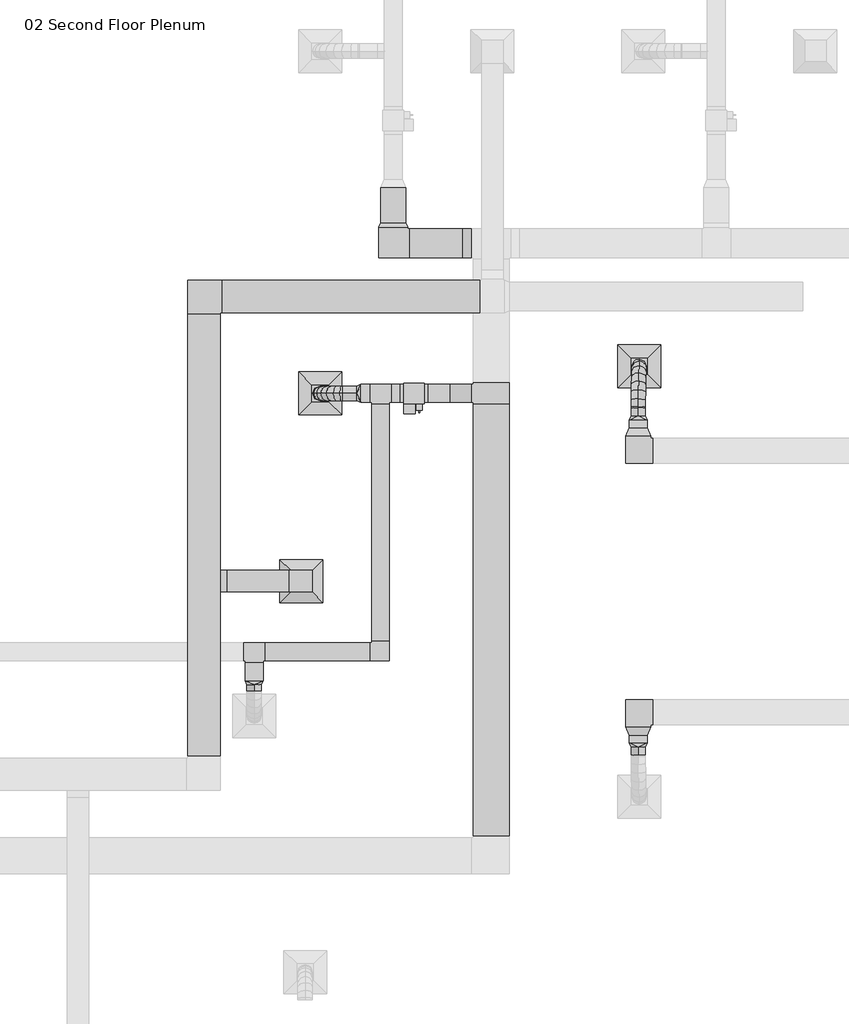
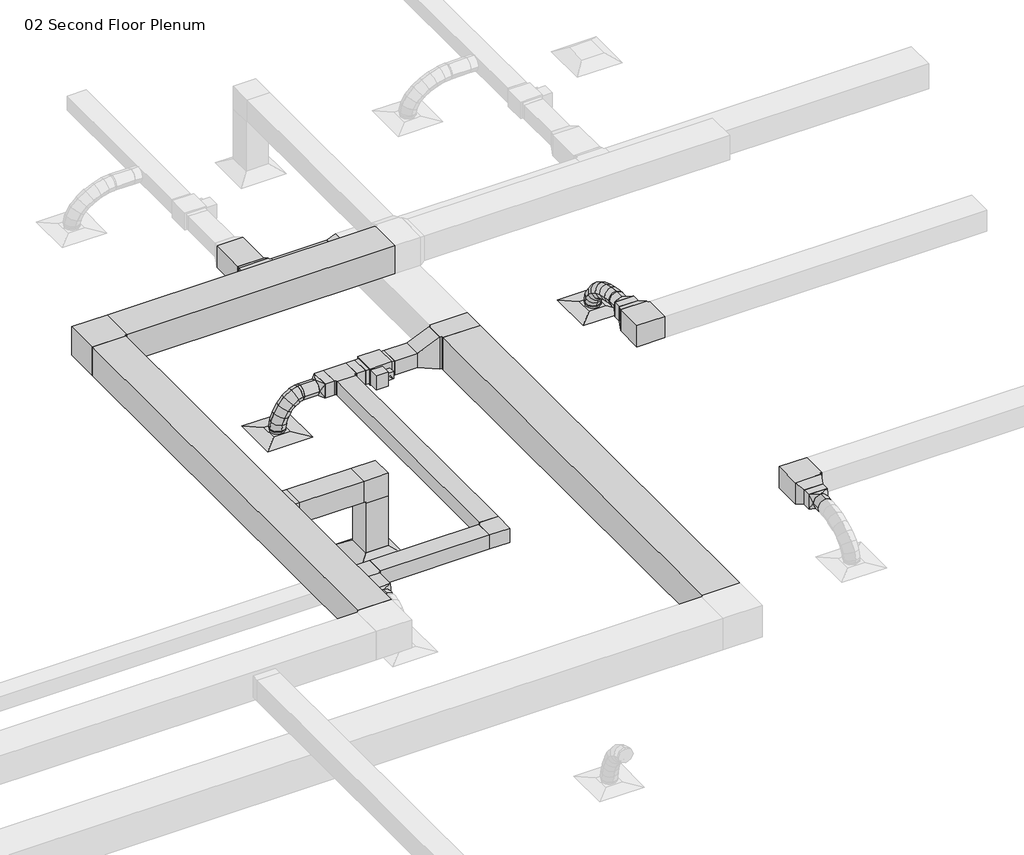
# One storey, part 5 of 12: 21 duct segments, 19 duct fittings, 3 air terminals, 1 proxy.
"""IFC4 building model written with IfcOpenShell, lengths in millimetres."""

from ifc_helpers import new_model, si_unit, point, frame, frame_2d, origin, place, context, project, spatial, polyline, circle_curve, ellipse_curve, trimmed, segment, composite_curve, outline, extrude, transform, mapped, element, save
from ifc_brep_helpers import plane_surface, cylinder_surface, advanced_brep
from components import return_diffuser_d30_returndiffuser_24x24_12x12_connection_ff543d60, supply_diffuser_rectangular_face_round_neck_d30_6390248a, bcn6785_vav_d30_vav1_8c327968, rectangular_elbow_mitered_standard_f09b78ec, rectangular_elbow_mitered_standard_f5573d14, rectangular_elbow_mitered_standard_452c98c7, rectangular_elbow_mitered_standard_d7f068f4, rectangular_elbow_mitered_standard_3a774ab6, rectangular_elbow_mitered_standard_4ff1c4e8, rectangular_takeoff_standard_e60ef6aa, rectangular_tee_standard_b316833c, rectangular_tee_standard_fc6ba10c, rectangular_transition_angle_45_degree_183635ce, rectangular_transition_angle_45_degree_6fcfed4c, rectangular_transition_angle_45_degree_308f7163, rectangular_transition_angle_45_degree_43c6b1ce, rectangular_transition_angle_45_degree_e9be1a90, rectangular_to_round_transition_angle_45_degree_e9430680, rectangular_to_round_transition_angle_45_degree_a46ebf92

model = new_model("IFC4")

# Units and contexts
model_context = context("Model", 3, world=origin())
ifc_project = project(units=[si_unit("LENGTHUNIT", "METRE", prefix="MILLI")], contexts=[model_context])

# Site, building, storey
site = spatial("IfcSite", under=ifc_project)
building = spatial("IfcBuilding", under=site)
storey = spatial("IfcBuildingStorey", under=building, Name="02 Second Floor Plenum", Elevation=3048.0)

# Air terminals
placement = place(None, origin())
return_diffuser_d30_returndiffuser_24x24_12x12_connection_shape = return_diffuser_d30_returndiffuser_24x24_12x12_connection_ff543d60(model_context)
element("IfcAirTerminal", 1, ObjectType="Return Diffuser : D30_ReturnDiffuser_24x24 12x12 Connection", at=placement, inside=storey, context=model_context, shape_type="MappedRepresentation", body=[
    mapped(return_diffuser_d30_returndiffuser_24x24_12x12_connection_shape, transform((-6594.6439747, 2535.164804, 3048.0), x_axis=(1.0, 0.0, 0.0), y_axis=(0.0, 1.0, 0.0), z_axis=(0.0, 0.0, 1.0))),
])
supply_diffuser_rectangular_face_round_neck_d30_shape = supply_diffuser_rectangular_face_round_neck_d30_6390248a(model_context)
element("IfcAirTerminal", 2, ObjectType="Supply Diffuser - Rectangular Face Round Neck : D30_SupplyDiffuser_24x24 8 Neck", at=placement, inside=storey, context=model_context, shape_type="MappedRepresentation", body=[
    mapped(supply_diffuser_rectangular_face_round_neck_d30_shape, transform((-1812.02907, 5575.8921675, 3048.0), x_axis=(1.0, 0.0, 0.0), y_axis=(0.0, 1.0, 0.0), z_axis=(0.0, 0.0, 1.0))),
])
element("IfcAirTerminal", 3, ObjectType="Supply Diffuser - Rectangular Face Round Neck : D30_SupplyDiffuser_24x24 8 Neck", at=placement, inside=storey, context=model_context, shape_type="MappedRepresentation", body=[
    mapped(supply_diffuser_rectangular_face_round_neck_d30_shape, transform((-6329.1542617, 5190.9101985, 3048.0), x_axis=(1.0, 0.0, 0.0), y_axis=(0.0, 1.0, 0.0), z_axis=(0.0, 0.0, 1.0))),
])

# Proxy
bcn6785_vav_d30_vav1_shape = bcn6785_vav_d30_vav1_8c327968(model_context)
element("IfcBuildingElementProxy", 4, Name="BCN6785_VAV : D30_VAV1", ObjectType="BCN6785_VAV : D30_VAV1", at=placement, inside=storey, context=model_context, shape_type="MappedRepresentation", body=[
    mapped(bcn6785_vav_d30_vav1_shape, transform((-5146.698366, 5190.9101985, 3384.55), x_axis=(1.0, 0.0, 0.0), y_axis=(0.0, 1.0, 0.0), z_axis=(0.0, 0.0, 1.0))),
])

# Duct fittings
rectangular_elbow_mitered_standard_shape = rectangular_elbow_mitered_standard_f09b78ec(model_context)
element("IfcDuctFitting", 5, ObjectType="Rectangular Elbow - Mitered : Standard", at=placement, inside=storey, context=model_context, shape_type="MappedRepresentation", body=[
    mapped(rectangular_elbow_mitered_standard_shape, transform((-5473.723366, 1533.3101985, 3505.2), x_axis=(1.0, 0.0, 0.0), y_axis=(0.0, 1.0, 0.0), z_axis=(0.0, 0.0, 1.0))),
])
rectangular_elbow_mitered_standard_2_shape = rectangular_elbow_mitered_standard_f5573d14(model_context)
element("IfcDuctFitting", 6, ObjectType="Rectangular Elbow - Mitered : Standard", at=placement, inside=storey, context=model_context, shape_type="MappedRepresentation", body=[
    mapped(rectangular_elbow_mitered_standard_2_shape, transform((-5292.748366, 7316.8809317, 3505.2), x_axis=(0.0, -1.0, 0.0), y_axis=(1.0, 0.0, 0.0), z_axis=(0.0, 0.0, 1.0))),
])
rectangular_elbow_mitered_standard_3_shape = rectangular_elbow_mitered_standard_452c98c7(model_context)
element("IfcDuctFitting", 7, ObjectType="Rectangular Elbow - Mitered : Standard", at=placement, inside=storey, context=model_context, shape_type="MappedRepresentation", body=[
    mapped(rectangular_elbow_mitered_standard_3_shape, transform((-1824.72907, 4380.2636656, 3505.2), x_axis=(0.0, -1.0, 0.0), y_axis=(1.0, 0.0, 0.0), z_axis=(0.0, 0.0, 1.0))),
])
rectangular_elbow_mitered_standard_4_shape = rectangular_elbow_mitered_standard_d7f068f4(model_context)
element("IfcDuctFitting", 8, ObjectType="Rectangular Elbow - Mitered : Standard", at=placement, inside=storey, context=model_context, shape_type="MappedRepresentation", body=[
    mapped(rectangular_elbow_mitered_standard_4_shape, transform((-1824.72907, 675.5206694, 3505.2), x_axis=(0.0, 1.0, 0.0), y_axis=(-1.0, 0.0, 0.0), z_axis=(0.0, 0.0, 1.0))),
])
rectangular_elbow_mitered_standard_5_shape = rectangular_elbow_mitered_standard_3a774ab6(model_context)
element("IfcDuctFitting", 9, ObjectType="Rectangular Elbow - Mitered : Standard", at=placement, inside=storey, context=model_context, shape_type="MappedRepresentation", body=[
    mapped(rectangular_elbow_mitered_standard_5_shape, transform((-7972.5142705, 6562.5101985, 4038.6), x_axis=(-1.0, 0.0, 0.0), y_axis=(0.0, -1.0, 0.0), z_axis=(0.0, 0.0, 1.0))),
])
rectangular_elbow_mitered_standard_6_shape = rectangular_elbow_mitered_standard_4ff1c4e8(model_context)
element("IfcDuctFitting", 10, ObjectType="Rectangular Elbow - Mitered : Standard", at=placement, inside=storey, context=model_context, shape_type="MappedRepresentation", body=[
    mapped(rectangular_elbow_mitered_standard_6_shape, transform((-6594.6439747, 2535.164804, 4038.6), x_axis=(0.0, 0.0, 1.0), y_axis=(-1.0, 0.0, 0.0), z_axis=(0.0, -1.0, 0.0))),
])
rectangular_takeoff_standard_shape = rectangular_takeoff_standard_e60ef6aa(model_context)
element("IfcDuctFitting", 11, ObjectType="Rectangular Takeoff : Standard", at=placement, inside=storey, context=model_context, shape_type="MappedRepresentation", body=[
    mapped(rectangular_takeoff_standard_shape, transform((-7743.9142705, 2535.164804, 4038.6), x_axis=(1.0, 0.0, 0.0), y_axis=(0.0, -1.0, 0.0), z_axis=(0.0, 0.0, -1.0))),
])
rectangular_tee_standard_shape = rectangular_tee_standard_b316833c(model_context)
element("IfcDuctFitting", 12, ObjectType="Rectangular Tee : Standard", at=placement, inside=storey, context=model_context, shape_type="MappedRepresentation", body=[
    mapped(rectangular_tee_standard_shape, transform((-5473.723366, 5190.9101985, 3505.2), x_axis=(1.0, 0.0, 0.0), y_axis=(0.0, 1.0, 0.0), z_axis=(0.0, 0.0, 1.0))),
])
element("IfcDuctFitting", 13, ObjectType="Rectangular Tee : Standard", at=placement, inside=storey, context=model_context, shape_type="MappedRepresentation", body=[
    mapped(rectangular_tee_standard_shape, transform((-7262.3576996, 1533.3101985, 3505.2), x_axis=(1.0, 0.0, 0.0), y_axis=(0.0, 1.0, 0.0), z_axis=(0.0, 0.0, 1.0))),
])
rectangular_tee_standard_2_shape = rectangular_tee_standard_fc6ba10c(model_context)
element("IfcDuctFitting", 14, ObjectType="Rectangular Tee : Standard", at=placement, inside=storey, context=model_context, shape_type="MappedRepresentation", body=[
    mapped(rectangular_tee_standard_2_shape, transform((-3908.5142705, 5190.9101985, 3505.2), x_axis=(0.0, -1.0, 0.0), y_axis=(1.0, 0.0, 0.0), z_axis=(0.0, 0.0, 1.0))),
])
rectangular_transition_angle_45_degree_shape = rectangular_transition_angle_45_degree_183635ce(model_context)
element("IfcDuctFitting", 15, ObjectType="Rectangular Transition - Angle : 45 Degree", at=placement, inside=storey, context=model_context, shape_type="MappedRepresentation", body=[
    mapped(rectangular_transition_angle_45_degree_shape, transform((-1824.72907, 4583.4636656, 3505.2), x_axis=(0.0, 1.0, 0.0), y_axis=(-1.0, 0.0, 0.0), z_axis=(0.0, 0.0, 1.0))),
])
rectangular_transition_angle_45_degree_2_shape = rectangular_transition_angle_45_degree_6fcfed4c(model_context)
element("IfcDuctFitting", 16, ObjectType="Rectangular Transition - Angle : 45 Degree", at=placement, inside=storey, context=model_context, shape_type="MappedRepresentation", body=[
    mapped(rectangular_transition_angle_45_degree_2_shape, transform((-5292.748366, 7545.4809317, 3505.2), x_axis=(0.0, 1.0, 0.0), y_axis=(-1.0, 0.0, 0.0), z_axis=(0.0, 0.0, 1.0))),
])
rectangular_transition_angle_45_degree_3_shape = rectangular_transition_angle_45_degree_308f7163(model_context)
element("IfcDuctFitting", 17, ObjectType="Rectangular Transition - Angle : 45 Degree", at=placement, inside=storey, context=model_context, shape_type="MappedRepresentation", body=[
    mapped(rectangular_transition_angle_45_degree_3_shape, transform((-1824.72907, 472.3206694, 3505.2), x_axis=(0.0, -1.0, 0.0), y_axis=(1.0, 0.0, 0.0), z_axis=(0.0, 0.0, 1.0))),
])
rectangular_transition_angle_45_degree_4_shape = rectangular_transition_angle_45_degree_43c6b1ce(model_context)
element("IfcDuctFitting", 18, ObjectType="Rectangular Transition - Angle : 45 Degree", at=placement, inside=storey, context=model_context, shape_type="MappedRepresentation", body=[
    mapped(rectangular_transition_angle_45_degree_4_shape, transform((-4187.9142705, 7316.8809317, 3505.2), x_axis=(-1.0, 0.0, 0.0), y_axis=(0.0, -1.0, 0.0), z_axis=(0.0, 0.0, 1.0))),
])
rectangular_transition_angle_45_degree_5_shape = rectangular_transition_angle_45_degree_e9be1a90(model_context)
element("IfcDuctFitting", 19, ObjectType="Rectangular Transition - Angle : 45 Degree", at=placement, inside=storey, context=model_context, shape_type="MappedRepresentation", body=[
    mapped(rectangular_transition_angle_45_degree_5_shape, transform((-4187.9142705, 5190.9101985, 3505.2), x_axis=(-1.0, 0.0, 0.0), y_axis=(0.0, -1.0, 0.0), z_axis=(0.0, 0.0, 1.0))),
])
rectangular_to_round_transition_angle_45_degree_shape = rectangular_to_round_transition_angle_45_degree_e9430680(model_context)
element("IfcDuctFitting", 20, ObjectType="Rectangular to Round Transition - Angle : 45 Degree", at=placement, inside=storey, context=model_context, shape_type="MappedRepresentation", body=[
    mapped(rectangular_to_round_transition_angle_45_degree_shape, transform((-1824.72907, 4812.0636656, 3505.2), x_axis=(0.0, 1.0, 0.0), y_axis=(-1.0, 0.0, 0.0), z_axis=(0.0, 0.0, 1.0))),
])
element("IfcDuctFitting", 21, ObjectType="Rectangular to Round Transition - Angle : 45 Degree", at=placement, inside=storey, context=model_context, shape_type="MappedRepresentation", body=[
    mapped(rectangular_to_round_transition_angle_45_degree_shape, transform((-5749.948366, 5190.9101985, 3505.2), x_axis=(-1.0, 0.0, 0.0), y_axis=(0.0, -1.0, 0.0), z_axis=(0.0, 0.0, 1.0))),
])
element("IfcDuctFitting", 22, ObjectType="Rectangular to Round Transition - Angle : 45 Degree", at=placement, inside=storey, context=model_context, shape_type="MappedRepresentation", body=[
    mapped(rectangular_to_round_transition_angle_45_degree_shape, transform((-7262.3576996, 1126.9101985, 3505.2), x_axis=(0.0, -1.0, 0.0), y_axis=(1.0, 0.0, 0.0), z_axis=(0.0, 0.0, 1.0))),
])
rectangular_to_round_transition_angle_45_degree_2_shape = rectangular_to_round_transition_angle_45_degree_a46ebf92(model_context)
element("IfcDuctFitting", 23, ObjectType="Rectangular to Round Transition - Angle : 45 Degree", at=placement, inside=storey, context=model_context, shape_type="MappedRepresentation", body=[
    mapped(rectangular_to_round_transition_angle_45_degree_2_shape, transform((-1824.72907, 243.7206694, 3505.2), x_axis=(0.0, -1.0, 0.0), y_axis=(1.0, 0.0, 0.0), z_axis=(0.0, 0.0, 1.0))),
])

# Duct segments
element("IfcDuctSegment", 24, ObjectType="Flex - Round", at=placement, inside=storey, context=model_context, shape_type="AdvancedBrep", body=[
    advanced_brep(
    [(-1926.32907, 4989.8636656, 3505.2), (-1824.72907, 4989.8636656, 3403.6), (-1723.12907, 4989.8636656, 3505.2), (-1824.72907, 4989.8636656, 3606.8), (-1926.32907, 4999.567919, 3505.2), (-1824.72907, 4994.0788258, 3403.6), (-1723.12907, 4998.8389182, 3505.2), (-1824.72907, 5004.3280114, 3606.8), (-1913.6018157, 5578.2453191, 3101.975), (-1809.6759184, 5677.4649132, 3101.975), (-1710.4563242, 5573.5390159, 3101.975), (-1814.3822216, 5474.3194217, 3101.975), (-1925.6198301, 5098.1611195, 3495.2286374), (-1824.1158959, 5079.317673, 3394.9792488), (-1722.4313128, 5095.8358756, 3495.3900757), (-1823.9352469, 5114.6793221, 3595.6394643), (-1923.7942297, 5211.6220305, 3466.4862765), (-1822.5324897, 5177.7262406, 3370.0500063), (-1720.6283417, 5207.8903774, 3467.0039918), (-1821.8900818, 5241.7861674, 3563.4402621), (-1921.3039831, 5322.3675657, 3420.7357134), (-1820.3687228, 5273.9526607, 3330.2974971), (-1718.1570723, 5317.7919649, 3421.6020757), (-1819.0923326, 5366.2068698, 3512.040292), (-1918.5955377, 5422.4042118, 3359.684367), (-1818.0786161, 5358.5379334, 3278.6759666), (-1715.4596868, 5417.420112, 3360.800032), (-1815.9766084, 5481.2863904, 3441.8084325), (-1916.1140094, 5503.713661, 3285.045612), (-1816.125392, 5422.5370351, 3219.9274038), (-1712.979699, 5498.6790873, 3286.2076099), (-1812.9683165, 5579.8557132, 3351.325818), (-1914.302731, 5558.3020349, 3198.5463085), (-1814.829355, 5461.5970443, 3158.0339393), (-1711.162406, 5553.4487302, 3199.4210725), (-1810.635782, 5650.1537208, 3239.9334417), (-1913.6018157, 5578.2453191, 3122.3621843), (-1814.3822216, 5474.3194217, 3109.4339606), (-1710.4563242, 5573.5390159, 3122.6753967), (-1809.6759184, 5677.4649132, 3135.6036204)],
    [
        (0, 1, circle_curve(frame((-1824.72907, 4989.8636656, 3505.2), z_axis=(0.0, -1.0, 0.0), x_axis=(-1.0, 0.0, 0.0)), 101.6)),
        (1, 2, circle_curve(frame((-1824.72907, 4989.8636656, 3505.2), z_axis=(0.0, -1.0, 0.0), x_axis=(-1.0, 0.0, 0.0)), 101.6)),
        (2, 3, circle_curve(frame((-1824.72907, 4989.8636656, 3505.2), z_axis=(0.0, -1.0, 0.0), x_axis=(-1.0, 0.0, 0.0)), 101.6)),
        (3, 0, circle_curve(frame((-1824.72907, 4989.8636656, 3505.2), z_axis=(0.0, -1.0, 0.0), x_axis=(-1.0, 0.0, 0.0)), 101.6)),
        (0, 4),
        (4, 5, ellipse_curve(frame((-1824.72907, 4999.2034186, 3505.2), z_axis=(-0.0035830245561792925, -0.9987239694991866, 0.05037454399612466), x_axis=(0.07085790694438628, -0.05050180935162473, -0.9962071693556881)), 101.7298103, 101.6)),
        (5, 1),
        (5, 6, ellipse_curve(frame((-1824.72907, 4999.2034186, 3505.2), z_axis=(-0.0035830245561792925, -0.9987239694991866, 0.05037454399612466), x_axis=(0.07085790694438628, -0.05050180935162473, -0.9962071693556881)), 101.7298103, 101.6)),
        (6, 2),
        (6, 7, ellipse_curve(frame((-1824.72907, 4999.2034186, 3505.2), z_axis=(-0.0035830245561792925, -0.9987239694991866, 0.05037454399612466), x_axis=(0.07085790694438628, -0.05050180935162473, -0.9962071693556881)), 101.7298103, 101.6)),
        (7, 3),
        (7, 4, ellipse_curve(frame((-1824.72907, 4999.2034186, 3505.2), z_axis=(-0.0035830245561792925, -0.9987239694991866, 0.05037454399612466), x_axis=(0.07085790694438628, -0.05050180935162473, -0.9962071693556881)), 101.7298103, 101.6)),
        (8, 9, circle_curve(frame((-1812.02907, 5575.8921675, 3101.975), z_axis=(0.0, 0.0, -1.0), x_axis=(-0.9997317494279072, 0.023160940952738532, 0.0)), 101.6)),
        (9, 10, circle_curve(frame((-1812.02907, 5575.8921675, 3101.975), z_axis=(0.0, 0.0, -1.0), x_axis=(-0.9997317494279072, 0.023160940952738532, 0.0)), 101.6)),
        (10, 11, circle_curve(frame((-1812.02907, 5575.8921675, 3101.975), z_axis=(0.0, 0.0, -1.0), x_axis=(-0.9997317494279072, 0.023160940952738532, 0.0)), 101.6)),
        (11, 8, circle_curve(frame((-1812.02907, 5575.8921675, 3101.975), z_axis=(0.0, 0.0, -1.0), x_axis=(-0.9997317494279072, 0.023160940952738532, 0.0)), 101.6)),
        (4, 12),
        (12, 13, ellipse_curve(frame((-1824.0255714, 5096.9984975, 3495.3093566), z_axis=(-0.011407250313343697, -0.984758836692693, 0.17355088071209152), x_axis=(0.05724654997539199, -0.17392066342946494, -0.9830943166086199)), 101.8770918, 101.6)),
        (13, 5),
        (13, 14, ellipse_curve(frame((-1824.0255714, 5096.9984975, 3495.3093566), z_axis=(-0.011407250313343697, -0.984758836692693, 0.17355088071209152), x_axis=(0.05724654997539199, -0.17392066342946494, -0.9830943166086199)), 101.8770918, 101.6)),
        (14, 6),
        (14, 15, ellipse_curve(frame((-1824.0255714, 5096.9984975, 3495.3093566), z_axis=(-0.011407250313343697, -0.984758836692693, 0.17355088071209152), x_axis=(0.05724654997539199, -0.17392066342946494, -0.9830943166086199)), 101.8770918, 101.6)),
        (15, 7),
        (15, 12, ellipse_curve(frame((-1824.0255714, 5096.9984975, 3495.3093566), z_axis=(-0.011407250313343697, -0.984758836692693, 0.17355088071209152), x_axis=(0.05724654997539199, -0.17392066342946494, -0.9830943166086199)), 101.8770918, 101.6)),
        (12, 16),
        (16, 17, ellipse_curve(frame((-1822.2112857, 5209.756204, 3466.7451342), z_axis=(-0.018233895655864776, -0.9490998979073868, 0.3144469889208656), x_axis=(0.03608996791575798, -0.31491909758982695, -0.9484321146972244)), 101.8629094, 101.6)),
        (17, 13),
        (17, 18, ellipse_curve(frame((-1822.2112857, 5209.756204, 3466.7451342), z_axis=(-0.018233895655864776, -0.9490998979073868, 0.3144469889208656), x_axis=(0.03608996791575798, -0.31491909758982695, -0.9484321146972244)), 101.8629094, 101.6)),
        (18, 14),
        (18, 19, ellipse_curve(frame((-1822.2112857, 5209.756204, 3466.7451342), z_axis=(-0.018233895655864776, -0.9490998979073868, 0.3144469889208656), x_axis=(0.03608996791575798, -0.31491909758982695, -0.9484321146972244)), 101.8629094, 101.6)),
        (19, 15),
        (19, 16, ellipse_curve(frame((-1822.2112857, 5209.756204, 3466.7451342), z_axis=(-0.018233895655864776, -0.9490998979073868, 0.3144469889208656), x_axis=(0.03608996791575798, -0.31491909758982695, -0.9484321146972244)), 101.8629094, 101.6)),
        (16, 20),
        (20, 21, ellipse_curve(frame((-1819.7305277, 5320.0797653, 3421.1688946), z_axis=(-0.022008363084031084, -0.8914185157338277, 0.45264628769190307), x_axis=(0.01491140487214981, -0.45299827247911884, -0.891386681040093)), 101.9105316, 101.6)),
        (21, 17),
        (21, 22, ellipse_curve(frame((-1819.7305277, 5320.0797653, 3421.1688946), z_axis=(-0.022008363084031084, -0.8914185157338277, 0.45264628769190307), x_axis=(0.01491140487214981, -0.45299827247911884, -0.891386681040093)), 101.9105316, 101.6)),
        (22, 18),
        (22, 23, ellipse_curve(frame((-1819.7305277, 5320.0797653, 3421.1688946), z_axis=(-0.022008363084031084, -0.8914185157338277, 0.45264628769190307), x_axis=(0.01491140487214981, -0.45299827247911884, -0.891386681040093)), 101.9105316, 101.6)),
        (23, 19),
        (23, 20, ellipse_curve(frame((-1819.7305277, 5320.0797653, 3421.1688946), z_axis=(-0.022008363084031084, -0.8914185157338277, 0.45264628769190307), x_axis=(0.01491140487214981, -0.45299827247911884, -0.891386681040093)), 101.9105316, 101.6)),
        (20, 24),
        (24, 25, ellipse_curve(frame((-1817.0276122, 5419.9121619, 3360.2421995), z_axis=(-0.022899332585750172, -0.7987093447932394, 0.6012811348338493), x_axis=(-0.0032264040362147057, -0.6013766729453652, -0.798959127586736)), 102.0830831, 101.6)),
        (25, 21),
        (25, 26, ellipse_curve(frame((-1817.0276122, 5419.9121619, 3360.2421995), z_axis=(-0.022899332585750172, -0.7987093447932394, 0.6012811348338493), x_axis=(-0.0032264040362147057, -0.6013766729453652, -0.798959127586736)), 102.0830831, 101.6)),
        (26, 22),
        (26, 27, ellipse_curve(frame((-1817.0276122, 5419.9121619, 3360.2421995), z_axis=(-0.022899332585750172, -0.7987093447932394, 0.6012811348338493), x_axis=(-0.0032264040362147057, -0.6013766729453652, -0.798959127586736)), 102.0830831, 101.6)),
        (27, 23),
        (27, 24, ellipse_curve(frame((-1817.0276122, 5419.9121619, 3360.2421995), z_axis=(-0.022899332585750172, -0.7987093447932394, 0.6012811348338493), x_axis=(-0.0032264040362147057, -0.6013766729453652, -0.798959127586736)), 102.0830831, 101.6)),
        (24, 28),
        (28, 29, ellipse_curve(frame((-1814.5468542, 5501.1963741, 3285.6266109), z_axis=(-0.020269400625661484, -0.6406750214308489, 0.7675445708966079), x_axis=(-0.01804826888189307, -0.7673427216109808, -0.6409831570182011)), 102.4996123, 101.6)),
        (29, 25),
        (29, 30, ellipse_curve(frame((-1814.5468542, 5501.1963741, 3285.6266109), z_axis=(-0.020269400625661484, -0.6406750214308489, 0.7675445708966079), x_axis=(-0.01804826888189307, -0.7673427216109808, -0.6409831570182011)), 102.4996123, 101.6)),
        (30, 26),
        (30, 31, ellipse_curve(frame((-1814.5468542, 5501.1963741, 3285.6266109), z_axis=(-0.020269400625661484, -0.6406750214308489, 0.7675445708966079), x_axis=(-0.01804826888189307, -0.7673427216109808, -0.6409831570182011)), 102.4996123, 101.6)),
        (31, 27),
        (31, 28, ellipse_curve(frame((-1814.5468542, 5501.1963741, 3285.6266109), z_axis=(-0.020269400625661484, -0.6406750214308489, 0.7675445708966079), x_axis=(-0.01804826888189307, -0.7673427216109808, -0.6409831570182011)), 102.4996123, 101.6)),
        (28, 32),
        (32, 33, ellipse_curve(frame((-1812.7325685, 5555.8753825, 3198.9836905), z_axis=(-0.013461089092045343, -0.39810403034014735, 0.9172415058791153), x_axis=(-0.028792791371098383, -0.9167899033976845, -0.398330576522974)), 102.8090539, 101.6)),
        (33, 29),
        (33, 34, ellipse_curve(frame((-1812.7325685, 5555.8753825, 3198.9836905), z_axis=(-0.013461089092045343, -0.39810403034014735, 0.9172415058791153), x_axis=(-0.028792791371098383, -0.9167899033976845, -0.398330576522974)), 102.8090539, 101.6)),
        (34, 30),
        (34, 35, ellipse_curve(frame((-1812.7325685, 5555.8753825, 3198.9836905), z_axis=(-0.013461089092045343, -0.39810403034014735, 0.9172415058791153), x_axis=(-0.028792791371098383, -0.9167899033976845, -0.398330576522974)), 102.8090539, 101.6)),
        (35, 31),
        (35, 32, ellipse_curve(frame((-1812.7325685, 5555.8753825, 3198.9836905), z_axis=(-0.013461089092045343, -0.39810403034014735, 0.9172415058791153), x_axis=(-0.028792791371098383, -0.9167899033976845, -0.398330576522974)), 102.8090539, 101.6)),
        (32, 36),
        (36, 37, ellipse_curve(frame((-1812.02907, 5575.8921675, 3122.5187905), z_axis=(-0.004486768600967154, -0.12766292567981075, 0.9918074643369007), x_axis=(-0.03483599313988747, -0.9911954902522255, -0.12774174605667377)), 102.4392371, 101.6)),
        (37, 33),
        (37, 38, ellipse_curve(frame((-1812.02907, 5575.8921675, 3122.5187905), z_axis=(-0.004486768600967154, -0.12766292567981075, 0.9918074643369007), x_axis=(-0.03483599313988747, -0.9911954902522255, -0.12774174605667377)), 102.4392371, 101.6)),
        (38, 34),
        (38, 39, ellipse_curve(frame((-1812.02907, 5575.8921675, 3122.5187905), z_axis=(-0.004486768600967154, -0.12766292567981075, 0.9918074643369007), x_axis=(-0.03483599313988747, -0.9911954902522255, -0.12774174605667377)), 102.4392371, 101.6)),
        (39, 35),
        (39, 36, ellipse_curve(frame((-1812.02907, 5575.8921675, 3122.5187905), z_axis=(-0.004486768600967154, -0.12766292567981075, 0.9918074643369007), x_axis=(-0.03483599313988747, -0.9911954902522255, -0.12774174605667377)), 102.4392371, 101.6)),
        (36, 8),
        (11, 37),
        (10, 38),
        (9, 39),
    ],
    [
        plane_surface(frame((-1926.32907, 4989.8636656, 3505.2), z_axis=(0.0, -1.0, 0.0), x_axis=(0.0, 0.0, 1.0))),
        cylinder_surface(frame((-1824.72907, 4989.8636656, 3505.2), z_axis=(0.0, -1.0, 0.0), x_axis=(-1.0, 0.0, 0.0)), 101.6),
        plane_surface(frame((-1812.02907, 5474.2921675, 3101.975), z_axis=(0.0, 0.0, -1.0), x_axis=(-1.0, 0.0, 0.0))),
        cylinder_surface(frame((-1824.72907, 4999.2034186, 3505.2), z_axis=(-0.00715690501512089, -0.9948991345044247, 0.10062052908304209), x_axis=(-0.9999743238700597, 0.007156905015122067, -0.000360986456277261)), 101.6),
        cylinder_surface(frame((-1824.0255714, 5096.9984975, 3495.3093566), z_axis=(-0.015595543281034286, -0.9692617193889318, 0.24553716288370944), x_axis=(-0.9998763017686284, 0.015618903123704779, -0.0018523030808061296)), 101.6),
        cylinder_surface(frame((-1822.2112857, 5209.756204, 3466.7451342), z_axis=(-0.020778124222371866, -0.9240387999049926, 0.38173363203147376), x_axis=(-0.9997732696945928, 0.020981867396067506, -0.003629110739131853)), 101.6),
        cylinder_surface(frame((-1819.7305277, 5320.0797653, 3421.1688946), z_axis=(-0.023104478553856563, -0.8533657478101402, 0.5208004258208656), x_axis=(-0.9997003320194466, 0.02393610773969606, -0.005129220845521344)), 101.6),
        cylinder_surface(frame((-1817.0276122, 5419.9121619, 3360.2421995), z_axis=(-0.02247745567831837, -0.7364935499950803, 0.6760710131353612), x_axis=(-0.9996687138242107, 0.02503892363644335, -0.005959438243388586)), 101.6),
        cylinder_surface(frame((-1814.5468542, 5501.1963741, 3285.6266109), z_axis=(-0.01770554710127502, -0.5336104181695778, 0.8455450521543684), x_axis=(-0.9996830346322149, 0.024586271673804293, -0.005417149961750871)), 101.6),
        cylinder_surface(frame((-1812.7325685, 5555.8753825, 3198.9836905), z_axis=(-0.008900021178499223, -0.25323408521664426, 0.9673640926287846), x_axis=(-0.9997180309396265, 0.023551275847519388, -0.0030324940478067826)), 101.6),
        cylinder_surface(frame((-1812.02907, 5575.8921675, 3122.5187905), z_axis=(0.0, 0.0, 1.0), x_axis=(-0.9997317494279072, 0.023160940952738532, 0.0)), 101.6),
    ],
    [
        (0, [[1, 2, 3, 4]]),
        (1, [[-1, 5, 6, 7]]),
        (1, [[-2, -7, 8, 9]]),
        (1, [[-3, -9, 10, 11]]),
        (1, [[-4, -11, 12, -5]]),
        (2, [[13, 14, 15, 16]]),
        (3, [[-6, 17, 18, 19]]),
        (3, [[-8, -19, 20, 21]]),
        (3, [[-10, -21, 22, 23]]),
        (3, [[-12, -23, 24, -17]]),
        (4, [[-18, 25, 26, 27]]),
        (4, [[-20, -27, 28, 29]]),
        (4, [[-22, -29, 30, 31]]),
        (4, [[-24, -31, 32, -25]]),
        (5, [[-26, 33, 34, 35]]),
        (5, [[-28, -35, 36, 37]]),
        (5, [[-30, -37, 38, 39]]),
        (5, [[-32, -39, 40, -33]]),
        (6, [[-34, 41, 42, 43]]),
        (6, [[-36, -43, 44, 45]]),
        (6, [[-38, -45, 46, 47]]),
        (6, [[-40, -47, 48, -41]]),
        (7, [[-42, 49, 50, 51]]),
        (7, [[-44, -51, 52, 53]]),
        (7, [[-46, -53, 54, 55]]),
        (7, [[-48, -55, 56, -49]]),
        (8, [[-50, 57, 58, 59]]),
        (8, [[-52, -59, 60, 61]]),
        (8, [[-54, -61, 62, 63]]),
        (8, [[-56, -63, 64, -57]]),
        (9, [[-58, 65, 66, 67]]),
        (9, [[-60, -67, 68, 69]]),
        (9, [[-62, -69, 70, 71]]),
        (9, [[-64, -71, 72, -65]]),
        (10, [[-66, 73, -16, 74]]),
        (10, [[-68, -74, -15, 75]]),
        (10, [[-70, -75, -14, 76]]),
        (10, [[-72, -76, -13, -73]]),
    ],
),
])
element("IfcDuctSegment", 25, ObjectType="Flex - Round", at=placement, inside=storey, context=model_context, shape_type="AdvancedBrep", body=[
    advanced_brep(
    [(-6014.4693904, 5089.3101985, 3505.2), (-6014.4693904, 5190.9101985, 3403.6), (-6014.4693904, 5292.5101985, 3505.2), (-6014.4693904, 5190.9101985, 3606.8), (-6036.157573, 5089.3101985, 3505.2), (-6021.4165161, 5190.9101985, 3403.6), (-6036.157573, 5292.5101985, 3505.2), (-6050.8986299, 5190.9101985, 3606.8), (-6329.1542617, 5089.3101985, 3101.975), (-6430.7542617, 5190.9101985, 3101.975), (-6329.1542617, 5292.5101985, 3101.975), (-6227.5542617, 5190.9101985, 3101.975), (-6096.9790409, 5089.3101985, 3487.1714135), (-6053.9833624, 5190.9101985, 3393.9465959), (-6096.9790409, 5292.5101985, 3487.1714135), (-6139.9747194, 5190.9101985, 3580.396231), (-6171.8299218, 5089.3101985, 3438.5479676), (-6105.2605504, 5190.9101985, 3360.6367197), (-6171.8299218, 5292.5101985, 3438.5479676), (-6238.3992932, 5190.9101985, 3516.4592154), (-6235.7474588, 5089.3101985, 3367.5231328), (-6153.24276, 5190.9101985, 3307.3191379), (-6235.7474588, 5292.5101985, 3367.5231328), (-6318.2521577, 5190.9101985, 3427.7271276), (-6285.4570774, 5089.3101985, 3282.2903796), (-6192.8547337, 5190.9101985, 3239.3999369), (-6285.4570774, 5292.5101985, 3282.2903796), (-6378.0594212, 5190.9101985, 3325.1808222), (-6317.6842032, 5089.3101985, 3191.0431785), (-6218.661445, 5190.9101985, 3166.3313612), (-6317.6842032, 5292.5101985, 3191.0431785), (-6416.7069614, 5190.9101985, 3215.7549957), (-6329.1542617, 5089.3101985, 3114.9517267), (-6227.5542617, 5190.9101985, 3107.3371258), (-6329.1542617, 5292.5101985, 3114.9517267), (-6430.7542617, 5190.9101985, 3122.5663277)],
    [
        (0, 1, circle_curve(frame((-6014.4693904, 5190.9101985, 3505.2), z_axis=(1.0, 0.0, 0.0), x_axis=(0.0, -1.0, 0.0)), 101.6)),
        (1, 2, circle_curve(frame((-6014.4693904, 5190.9101985, 3505.2), z_axis=(1.0, 0.0, 0.0), x_axis=(0.0, -1.0, 0.0)), 101.6)),
        (2, 3, circle_curve(frame((-6014.4693904, 5190.9101985, 3505.2), z_axis=(1.0, 0.0, 0.0), x_axis=(0.0, -1.0, 0.0)), 101.6)),
        (3, 0, circle_curve(frame((-6014.4693904, 5190.9101985, 3505.2), z_axis=(1.0, 0.0, 0.0), x_axis=(0.0, -1.0, 0.0)), 101.6)),
        (0, 4),
        (4, 5, ellipse_curve(frame((-6036.157573, 5190.9101985, 3505.2), z_axis=(0.9896378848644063, 0.0, 0.14358571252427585), x_axis=(0.14358571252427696, 0.0, -0.9896378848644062)), 102.6638143, 101.6)),
        (5, 1),
        (5, 6, ellipse_curve(frame((-6036.157573, 5190.9101985, 3505.2), z_axis=(0.9896378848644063, 0.0, 0.14358571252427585), x_axis=(0.14358571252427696, 0.0, -0.9896378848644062)), 102.6638143, 101.6)),
        (6, 2),
        (6, 7, ellipse_curve(frame((-6036.157573, 5190.9101985, 3505.2), z_axis=(0.9896378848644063, 0.0, 0.14358571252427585), x_axis=(0.14358571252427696, 0.0, -0.9896378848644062)), 102.6638143, 101.6)),
        (7, 3),
        (7, 4, ellipse_curve(frame((-6036.157573, 5190.9101985, 3505.2), z_axis=(0.9896378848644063, 0.0, 0.14358571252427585), x_axis=(0.14358571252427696, 0.0, -0.9896378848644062)), 102.6638143, 101.6)),
        (8, 9, circle_curve(frame((-6329.1542617, 5190.9101985, 3101.975), z_axis=(0.0, 0.0, -1.0), x_axis=(0.0, -1.0, 0.0)), 101.6)),
        (9, 10, circle_curve(frame((-6329.1542617, 5190.9101985, 3101.975), z_axis=(0.0, 0.0, -1.0), x_axis=(0.0, -1.0, 0.0)), 101.6)),
        (10, 11, circle_curve(frame((-6329.1542617, 5190.9101985, 3101.975), z_axis=(0.0, 0.0, -1.0), x_axis=(0.0, -1.0, 0.0)), 101.6)),
        (11, 8, circle_curve(frame((-6329.1542617, 5190.9101985, 3101.975), z_axis=(0.0, 0.0, -1.0), x_axis=(0.0, -1.0, 0.0)), 101.6)),
        (4, 12),
        (12, 13, ellipse_curve(frame((-6096.9790409, 5190.9101985, 3487.1714135), z_axis=(0.9080748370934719, 0.0, 0.41880793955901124), x_axis=(0.41880793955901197, 0.0, -0.9080748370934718)), 102.6620425, 101.6)),
        (13, 5),
        (13, 14, ellipse_curve(frame((-6096.9790409, 5190.9101985, 3487.1714135), z_axis=(0.9080748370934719, 0.0, 0.41880793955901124), x_axis=(0.41880793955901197, 0.0, -0.9080748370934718)), 102.6620425, 101.6)),
        (14, 6),
        (14, 15, ellipse_curve(frame((-6096.9790409, 5190.9101985, 3487.1714135), z_axis=(0.9080748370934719, 0.0, 0.41880793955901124), x_axis=(0.41880793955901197, 0.0, -0.9080748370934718)), 102.6620425, 101.6)),
        (15, 7),
        (15, 12, ellipse_curve(frame((-6096.9790409, 5190.9101985, 3487.1714135), z_axis=(0.9080748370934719, 0.0, 0.41880793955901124), x_axis=(0.41880793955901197, 0.0, -0.9080748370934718)), 102.6620425, 101.6)),
        (12, 16),
        (16, 17, ellipse_curve(frame((-6171.8299218, 5190.9101985, 3438.5479676), z_axis=(0.7602764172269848, 0.0, 0.649599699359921), x_axis=(0.6495996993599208, 0.0, -0.7602764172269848)), 102.477528, 101.6)),
        (17, 13),
        (17, 18, ellipse_curve(frame((-6171.8299218, 5190.9101985, 3438.5479676), z_axis=(0.7602764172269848, 0.0, 0.649599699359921), x_axis=(0.6495996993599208, 0.0, -0.7602764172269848)), 102.477528, 101.6)),
        (18, 14),
        (18, 19, ellipse_curve(frame((-6171.8299218, 5190.9101985, 3438.5479676), z_axis=(0.7602764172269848, 0.0, 0.649599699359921), x_axis=(0.6495996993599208, 0.0, -0.7602764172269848)), 102.477528, 101.6)),
        (19, 15),
        (19, 16, ellipse_curve(frame((-6171.8299218, 5190.9101985, 3438.5479676), z_axis=(0.7602764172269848, 0.0, 0.649599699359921), x_axis=(0.6495996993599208, 0.0, -0.7602764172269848)), 102.477528, 101.6)),
        (16, 20),
        (20, 21, ellipse_curve(frame((-6235.7474588, 5190.9101985, 3367.5231328), z_axis=(0.5894554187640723, 0.0, 0.8078009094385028), x_axis=(0.8078009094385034, 0.0, -0.5894554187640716)), 102.1349418, 101.6)),
        (21, 17),
        (21, 22, ellipse_curve(frame((-6235.7474588, 5190.9101985, 3367.5231328), z_axis=(0.5894554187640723, 0.0, 0.8078009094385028), x_axis=(0.8078009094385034, 0.0, -0.5894554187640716)), 102.1349418, 101.6)),
        (22, 18),
        (22, 23, ellipse_curve(frame((-6235.7474588, 5190.9101985, 3367.5231328), z_axis=(0.5894554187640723, 0.0, 0.8078009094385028), x_axis=(0.8078009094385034, 0.0, -0.5894554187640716)), 102.1349418, 101.6)),
        (23, 19),
        (23, 20, ellipse_curve(frame((-6235.7474588, 5190.9101985, 3367.5231328), z_axis=(0.5894554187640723, 0.0, 0.8078009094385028), x_axis=(0.8078009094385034, 0.0, -0.5894554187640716)), 102.1349418, 101.6)),
        (20, 24),
        (24, 25, ellipse_curve(frame((-6285.4570774, 5190.9101985, 3282.2903796), z_axis=(0.42027677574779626, 0.0, 0.9073959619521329), x_axis=(0.9073959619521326, 0.0, -0.4202767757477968)), 102.0528497, 101.6)),
        (25, 21),
        (25, 26, ellipse_curve(frame((-6285.4570774, 5190.9101985, 3282.2903796), z_axis=(0.42027677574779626, 0.0, 0.9073959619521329), x_axis=(0.9073959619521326, 0.0, -0.4202767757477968)), 102.0528497, 101.6)),
        (26, 22),
        (26, 27, ellipse_curve(frame((-6285.4570774, 5190.9101985, 3282.2903796), z_axis=(0.42027677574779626, 0.0, 0.9073959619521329), x_axis=(0.9073959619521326, 0.0, -0.4202767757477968)), 102.0528497, 101.6)),
        (27, 23),
        (27, 24, ellipse_curve(frame((-6285.4570774, 5190.9101985, 3282.2903796), z_axis=(0.42027677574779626, 0.0, 0.9073959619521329), x_axis=(0.9073959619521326, 0.0, -0.4202767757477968)), 102.0528497, 101.6)),
        (24, 28),
        (28, 29, ellipse_curve(frame((-6317.6842032, 5190.9101985, 3191.0431785), z_axis=(0.24213102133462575, 0.0, 0.9702435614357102), x_axis=(0.9702435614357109, 0.0, -0.2421310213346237)), 102.0596911, 101.6)),
        (29, 25),
        (29, 30, ellipse_curve(frame((-6317.6842032, 5190.9101985, 3191.0431785), z_axis=(0.24213102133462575, 0.0, 0.9702435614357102), x_axis=(0.9702435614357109, 0.0, -0.2421310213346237)), 102.0596911, 101.6)),
        (30, 26),
        (30, 31, ellipse_curve(frame((-6317.6842032, 5190.9101985, 3191.0431785), z_axis=(0.24213102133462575, 0.0, 0.9702435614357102), x_axis=(0.9702435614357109, 0.0, -0.2421310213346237)), 102.0596911, 101.6)),
        (31, 27),
        (31, 28, ellipse_curve(frame((-6317.6842032, 5190.9101985, 3191.0431785), z_axis=(0.24213102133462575, 0.0, 0.9702435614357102), x_axis=(0.9702435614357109, 0.0, -0.2421310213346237)), 102.0596911, 101.6)),
        (28, 32),
        (32, 33, ellipse_curve(frame((-6329.1542617, 5190.9101985, 3114.9517267), z_axis=(0.07473725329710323, 0.0, 0.9972032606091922), x_axis=(0.9972032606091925, 0.0, -0.07473725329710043)), 101.8849456, 101.6)),
        (33, 29),
        (33, 34, ellipse_curve(frame((-6329.1542617, 5190.9101985, 3114.9517267), z_axis=(0.07473725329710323, 0.0, 0.9972032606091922), x_axis=(0.9972032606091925, 0.0, -0.07473725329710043)), 101.8849456, 101.6)),
        (34, 30),
        (34, 35, ellipse_curve(frame((-6329.1542617, 5190.9101985, 3114.9517267), z_axis=(0.07473725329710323, 0.0, 0.9972032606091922), x_axis=(0.9972032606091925, 0.0, -0.07473725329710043)), 101.8849456, 101.6)),
        (35, 31),
        (35, 32, ellipse_curve(frame((-6329.1542617, 5190.9101985, 3114.9517267), z_axis=(0.07473725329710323, 0.0, 0.9972032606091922), x_axis=(0.9972032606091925, 0.0, -0.07473725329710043)), 101.8849456, 101.6)),
        (32, 8),
        (11, 33),
        (10, 34),
        (9, 35),
    ],
    [
        plane_surface(frame((-6014.4693904, 5190.9101985, 3403.6), z_axis=(1.0, 0.0, 0.0), x_axis=(0.0, -1.0, 0.0))),
        cylinder_surface(frame((-6014.4693904, 5190.9101985, 3505.2), z_axis=(1.0, 0.0, 0.0), x_axis=(0.0, -1.0, 0.0)), 101.6),
        plane_surface(frame((-6329.1542617, 5089.3101985, 3101.975), z_axis=(0.0, 0.0, -1.0), x_axis=(-1.0, 0.0, 0.0))),
        cylinder_surface(frame((-6036.157573, 5190.9101985, 3505.2), z_axis=(0.958766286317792, 0.0, 0.2841957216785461), x_axis=(0.0, -1.0, 0.0)), 101.6),
        cylinder_surface(frame((-6096.9790409, 5190.9101985, 3487.1714135), z_axis=(0.8385952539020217, 0.0, 0.5447549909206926), x_axis=(0.0, -1.0, 0.0)), 101.6),
        cylinder_surface(frame((-6171.8299218, 5190.9101985, 3438.5479676), z_axis=(0.6689368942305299, 0.0, 0.7433191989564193), x_axis=(0.0, -1.0, 0.0)), 101.6),
        cylinder_surface(frame((-6235.7474588, 5190.9101985, 3367.5231328), z_axis=(0.5037992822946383, 0.0, 0.8638207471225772), x_axis=(0.0, -1.0, 0.0)), 101.6),
        cylinder_surface(frame((-6285.4570774, 5190.9101985, 3282.2903796), z_axis=(0.33302439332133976, 0.0, 0.9429182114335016), x_axis=(0.0, -1.0, 0.0)), 101.6),
        cylinder_surface(frame((-6317.6842032, 5190.9101985, 3191.0431785), z_axis=(0.14905646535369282, 0.0, 0.9888286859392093), x_axis=(0.0, -1.0, 0.0)), 101.6),
        cylinder_surface(frame((-6329.1542617, 5190.9101985, 3114.9517267), z_axis=(0.0, 0.0, 1.0), x_axis=(0.0, -1.0, 0.0)), 101.6),
    ],
    [
        (0, [[1, 2, 3, 4]]),
        (1, [[-1, 5, 6, 7]]),
        (1, [[-2, -7, 8, 9]]),
        (1, [[-3, -9, 10, 11]]),
        (1, [[-4, -11, 12, -5]]),
        (2, [[13, 14, 15, 16]]),
        (3, [[-6, 17, 18, 19]]),
        (3, [[-8, -19, 20, 21]]),
        (3, [[-10, -21, 22, 23]]),
        (3, [[-12, -23, 24, -17]]),
        (4, [[-18, 25, 26, 27]]),
        (4, [[-20, -27, 28, 29]]),
        (4, [[-22, -29, 30, 31]]),
        (4, [[-24, -31, 32, -25]]),
        (5, [[-26, 33, 34, 35]]),
        (5, [[-28, -35, 36, 37]]),
        (5, [[-30, -37, 38, 39]]),
        (5, [[-32, -39, 40, -33]]),
        (6, [[-34, 41, 42, 43]]),
        (6, [[-36, -43, 44, 45]]),
        (6, [[-38, -45, 46, 47]]),
        (6, [[-40, -47, 48, -41]]),
        (7, [[-42, 49, 50, 51]]),
        (7, [[-44, -51, 52, 53]]),
        (7, [[-46, -53, 54, 55]]),
        (7, [[-48, -55, 56, -49]]),
        (8, [[-50, 57, 58, 59]]),
        (8, [[-52, -59, 60, 61]]),
        (8, [[-54, -61, 62, 63]]),
        (8, [[-56, -63, 64, -57]]),
        (9, [[-58, 65, -16, 66]]),
        (9, [[-60, -66, -15, 67]]),
        (9, [[-62, -67, -14, 68]]),
        (9, [[-64, -68, -13, -65]]),
    ],
),
])
element("IfcDuctSegment", 26, ObjectType="Mitered Elbows / Taps", at=placement, inside=storey, context=model_context, shape_type="SweptSolid", body=[
    extrude(outline(polyline([(-7642.3142705, 2382.764804), (-7642.3142705, 2687.564804), (-6772.4439747, 2687.564804), (-6772.4439747, 2382.764804), (-7642.3142705, 2382.764804)])), frame((0.0, 0.0, 3886.2), z_axis=(0.0, 0.0, 1.0), x_axis=(1.0, 0.0, 0.0)), (0.0, 0.0, 1.0), 304.8),
])
element("IfcDuctSegment", 27, ObjectType="Mitered Elbows / Taps", at=placement, inside=storey, context=model_context, shape_type="SweptSolid", body=[
    extrude(outline(polyline([(-6747.0439747, 2687.564804), (-6442.2439747, 2687.564804), (-6442.2439747, 2382.764804), (-6747.0439747, 2382.764804), (-6747.0439747, 2687.564804)])), frame((0.0, 0.0, 3149.6), z_axis=(0.0, 0.0, 1.0), x_axis=(1.0, 0.0, 0.0)), (0.0, 0.0, 1.0), 711.2),
])
element("IfcDuctSegment", 28, ObjectType="Mitered Elbows / Tees", at=placement, inside=storey, context=model_context, shape_type="SweptSolid", body=[
    extrude(outline(polyline([(-4310.5563195, 7520.0809317), (-4310.5563195, 7113.6809317), (-5064.148366, 7113.6809317), (-5064.148366, 7520.0809317), (-4310.5563195, 7520.0809317)])), frame((0.0, 0.0, 3327.4), z_axis=(0.0, 0.0, 1.0), x_axis=(1.0, 0.0, 0.0)), (0.0, 0.0, 1.0), 355.6),
])
element("IfcDuctSegment", 29, ObjectType="Mitered Elbows / Tees", at=placement, inside=storey, context=model_context, shape_type="SweptSolid", body=[
    extrude(outline(polyline([(-5470.548366, 8101.2001185), (-5114.948366, 8101.2001185), (-5114.948366, 7606.8019562), (-5470.548366, 7606.8019562), (-5470.548366, 8101.2001185)])), frame((0.0, 0.0, 3352.8), z_axis=(0.0, 0.0, 1.0), x_axis=(1.0, 0.0, 0.0)), (0.0, 0.0, 1.0), 304.8),
])
element("IfcDuctSegment", 30, ObjectType="Mitered Elbows / Tees", at=placement, inside=storey, context=model_context, shape_type="SweptSolid", body=[
    extrude(outline(polyline([(-1697.72907, 4706.1057145), (-1951.72907, 4706.1057145), (-1951.72907, 4812.0636656), (-1697.72907, 4812.0636656), (-1697.72907, 4706.1057145)])), frame((0.0, 0.0, 3403.6), z_axis=(0.0, 0.0, 1.0), x_axis=(1.0, 0.0, 0.0)), (0.0, 0.0, 1.0), 203.2),
])
element("IfcDuctSegment", 31, ObjectType="Mitered Elbows / Tees", at=placement, inside=storey, context=model_context, shape_type="SweptSolid", body=[
    extrude(outline(polyline([(-1951.72907, 349.6786204), (-1697.72907, 349.6786204), (-1697.72907, 243.7206694), (-1951.72907, 243.7206694), (-1951.72907, 349.6786204)])), frame((0.0, 0.0, 3403.6), z_axis=(0.0, 0.0, 1.0), x_axis=(1.0, 0.0, 0.0)), (0.0, 0.0, 1.0), 203.2),
])
element("IfcDuctSegment", 32, ObjectType="Mitered Elbows / Tees", at=placement, inside=storey, context=model_context, shape_type="SweptSolid", body=[
    extrude(outline(polyline([(-4162.5142705, 5038.5101985), (-3654.5142705, 5038.5101985), (-3654.5142705, -1076.5265825), (-4162.5142705, -1076.5265825), (-4162.5142705, 5038.5101985)])), frame((0.0, 0.0, 3276.6), z_axis=(0.0, 0.0, 1.0), x_axis=(1.0, 0.0, 0.0)), (0.0, 0.0, 1.0), 457.2),
])
element("IfcDuctSegment", 33, ObjectType="Mitered Elbows / Tees", at=placement, inside=storey, context=model_context, shape_type="SweptSolid", body=[
    extrude(outline(polyline([(-4494.5193929, 5317.9101985), (-4494.5193929, 5063.9101985), (-4803.798366, 5063.9101985), (-4803.798366, 5317.9101985), (-4494.5193929, 5317.9101985)])), frame((0.0, 0.0, 3403.6), z_axis=(0.0, 0.0, 1.0), x_axis=(1.0, 0.0, 0.0)), (0.0, 0.0, 1.0), 203.2),
])
element("IfcDuctSegment", 34, ObjectType="Mitered Elbows / Tees", at=placement, inside=storey, context=model_context, shape_type="SweptSolid", body=[
    extrude(outline(polyline([(-5626.123366, 5317.9101985), (-5626.123366, 5063.9101985), (-5749.948366, 5063.9101985), (-5749.948366, 5317.9101985), (-5626.123366, 5317.9101985)])), frame((0.0, 0.0, 3403.6), z_axis=(0.0, 0.0, 1.0), x_axis=(1.0, 0.0, 0.0)), (0.0, 0.0, 1.0), 203.2),
])
element("IfcDuctSegment", 35, ObjectType="Mitered Elbows / Tees", at=placement, inside=storey, context=model_context, shape_type="SweptSolid", body=[
    extrude(outline(polyline([(-5600.723366, 5038.5101985), (-5346.723366, 5038.5101985), (-5346.723366, 1685.7101985), (-5600.723366, 1685.7101985), (-5600.723366, 5038.5101985)])), frame((0.0, 0.0, 3403.6), z_axis=(0.0, 0.0, 1.0), x_axis=(1.0, 0.0, 0.0)), (0.0, 0.0, 1.0), 203.2),
])
element("IfcDuctSegment", 36, ObjectType="Mitered Elbows / Tees", at=placement, inside=storey, context=model_context, shape_type="SweptSolid", body=[
    extrude(outline(polyline([(-5197.498366, 5317.9101985), (-5197.498366, 5063.9101985), (-5321.323366, 5063.9101985), (-5321.323366, 5317.9101985), (-5197.498366, 5317.9101985)])), frame((0.0, 0.0, 3403.6), z_axis=(0.0, 0.0, 1.0), x_axis=(1.0, 0.0, 0.0)), (0.0, 0.0, 1.0), 203.2),
])
element("IfcDuctSegment", 37, ObjectType="Mitered Elbows / Tees", at=placement, inside=storey, context=model_context, shape_type="SweptSolid", body=[
    extrude(outline(polyline([(-7389.3576996, 1380.9101985), (-7135.3576996, 1380.9101985), (-7135.3576996, 1126.9101985), (-7389.3576996, 1126.9101985), (-7389.3576996, 1380.9101985)])), frame((0.0, 0.0, 3403.6), z_axis=(0.0, 0.0, 1.0), x_axis=(1.0, 0.0, 0.0)), (0.0, 0.0, 1.0), 203.2),
])
element("IfcDuctSegment", 38, ObjectType="Mitered Elbows / Tees", at=placement, inside=storey, context=model_context, shape_type="SweptSolid", body=[
    extrude(outline(polyline([(-5626.123366, 1660.3101985), (-5626.123366, 1406.3101985), (-7109.9576996, 1406.3101985), (-7109.9576996, 1660.3101985), (-5626.123366, 1660.3101985)])), frame((0.0, 0.0, 3403.6), z_axis=(0.0, 0.0, 1.0), x_axis=(1.0, 0.0, 0.0)), (0.0, 0.0, 1.0), 203.2),
])
element("IfcDuctSegment", 39, ObjectType="Mitered Elbows / Tees", at=placement, inside=storey, context=model_context, shape_type="SweptSolid", body=[
    extrude(outline(polyline([(-7743.9142705, 52.6843257), (-8201.1142705, 52.6843257), (-8201.1142705, 6308.5101985), (-7743.9142705, 6308.5101985), (-7743.9142705, 52.6843257)])), frame((0.0, 0.0, 3835.4), z_axis=(0.0, 0.0, 1.0), x_axis=(1.0, 0.0, 0.0)), (0.0, 0.0, 1.0), 406.4),
])
element("IfcDuctSegment", 40, ObjectType="Mitered Elbows / Tees", at=placement, inside=storey, context=model_context, shape_type="SweptSolid", body=[
    extrude(outline(polyline([(-7718.5142705, 6333.9101985), (-7718.5142705, 6791.1101985), (-4068.5542617, 6791.1101985), (-4068.5542617, 6333.9101985), (-7718.5142705, 6333.9101985)])), frame((0.0, 0.0, 3835.4), z_axis=(0.0, 0.0, 1.0), x_axis=(1.0, 0.0, 0.0)), (0.0, 0.0, 1.0), 406.4),
])
element("IfcDuctSegment", 41, ObjectType="Taps", at=placement, inside=storey, context=model_context, shape_type="SweptSolid", body=[
    extrude(outline(composite_curve([segment(trimmed(circle_curve(frame_2d((3505.2, -1824.72907)), 101.6), [point((3505.2, -1723.12907))], [point((3606.8, -1824.72907))], False, "CARTESIAN"), True, "CONTINUOUS"), segment(trimmed(circle_curve(frame_2d((3505.2, -1824.72907)), 101.6), [point((3606.8, -1824.72907))], [point((3505.2, -1926.32907))], False, "CARTESIAN"), True, "CONTINUOUS"), segment(trimmed(circle_curve(frame_2d((3505.2, -1824.72907)), 101.6), [point((3505.2, -1926.32907))], [point((3403.6, -1824.72907))], False, "CARTESIAN"), True, "CONTINUOUS"), segment(trimmed(circle_curve(frame_2d((3505.2, -1824.72907)), 101.6), [point((3403.6, -1824.72907))], [point((3505.2, -1723.12907))], False, "CARTESIAN"), True, "CONTINUOUS")], self_intersect=False)), frame((0.0, 4873.3846901, 0.0), z_axis=(0.0, 1.0, 0.0), x_axis=(0.0, 0.0, 1.0)), (0.0, 0.0, 1.0), 116.4789755),
])
element("IfcDuctSegment", 42, ObjectType="Taps", at=placement, inside=storey, context=model_context, shape_type="SweptSolid", body=[
    extrude(outline(composite_curve([segment(trimmed(circle_curve(frame_2d((3505.2, -1824.72907)), 101.6), [point((3505.2, -1926.32907))], [point((3403.6, -1824.72907))], False, "CARTESIAN"), True, "CONTINUOUS"), segment(trimmed(circle_curve(frame_2d((3505.2, -1824.72907)), 101.6), [point((3403.6, -1824.72907))], [point((3505.2, -1723.12907))], False, "CARTESIAN"), True, "CONTINUOUS"), segment(trimmed(circle_curve(frame_2d((3505.2, -1824.72907)), 101.6), [point((3505.2, -1723.12907))], [point((3606.8, -1824.72907))], False, "CARTESIAN"), True, "CONTINUOUS"), segment(trimmed(circle_curve(frame_2d((3505.2, -1824.72907)), 101.6), [point((3606.8, -1824.72907))], [point((3505.2, -1926.32907))], False, "CARTESIAN"), True, "CONTINUOUS")], self_intersect=False)), frame((0.0, 65.9206694, 0.0), z_axis=(0.0, 1.0, 0.0), x_axis=(0.0, 0.0, 1.0)), (0.0, 0.0, 1.0), 116.4789755),
])
element("IfcDuctSegment", 43, ObjectType="Taps", at=placement, inside=storey, context=model_context, shape_type="SweptSolid", body=[
    extrude(outline(composite_curve([segment(trimmed(circle_curve(frame_2d((5190.9101985, 3505.2)), 101.6), [point((5292.5101985, 3505.2))], [point((5190.9101985, 3403.6))], False, "CARTESIAN"), True, "CONTINUOUS"), segment(trimmed(circle_curve(frame_2d((5190.9101985, 3505.2)), 101.6), [point((5190.9101985, 3403.6))], [point((5089.3101985, 3505.2))], False, "CARTESIAN"), True, "CONTINUOUS"), segment(trimmed(circle_curve(frame_2d((5190.9101985, 3505.2)), 101.6), [point((5089.3101985, 3505.2))], [point((5190.9101985, 3606.8))], False, "CARTESIAN"), True, "CONTINUOUS"), segment(trimmed(circle_curve(frame_2d((5190.9101985, 3505.2)), 101.6), [point((5190.9101985, 3606.8))], [point((5292.5101985, 3505.2))], False, "CARTESIAN"), True, "CONTINUOUS")], self_intersect=False)), frame((-6014.4693904, 0.0, 0.0), z_axis=(1.0, 0.0, 0.0), x_axis=(0.0, 1.0, 0.0)), (0.0, 0.0, 1.0), 203.2),
])
element("IfcDuctSegment", 44, ObjectType="Taps", at=placement, inside=storey, context=model_context, shape_type="SweptSolid", body=[
    extrude(outline(composite_curve([segment(trimmed(circle_curve(frame_2d((3505.2, -7262.3576996)), 101.6), [point((3505.2, -7363.9576996))], [point((3403.6, -7262.3576996))], False, "CARTESIAN"), True, "CONTINUOUS"), segment(trimmed(circle_curve(frame_2d((3505.2, -7262.3576996)), 101.6), [point((3403.6, -7262.3576996))], [point((3505.2, -7160.7576996))], False, "CARTESIAN"), True, "CONTINUOUS"), segment(trimmed(circle_curve(frame_2d((3505.2, -7262.3576996)), 101.6), [point((3505.2, -7160.7576996))], [point((3606.8, -7262.3576996))], False, "CARTESIAN"), True, "CONTINUOUS"), segment(trimmed(circle_curve(frame_2d((3505.2, -7262.3576996)), 101.6), [point((3606.8, -7262.3576996))], [point((3505.2, -7363.9576996))], False, "CARTESIAN"), True, "CONTINUOUS")], self_intersect=False)), frame((0.0, 974.5101985, 0.0), z_axis=(0.0, 1.0, 0.0), x_axis=(0.0, 0.0, 1.0)), (0.0, 0.0, 1.0), 91.0789755),
])

save(model, "model.ifc")
